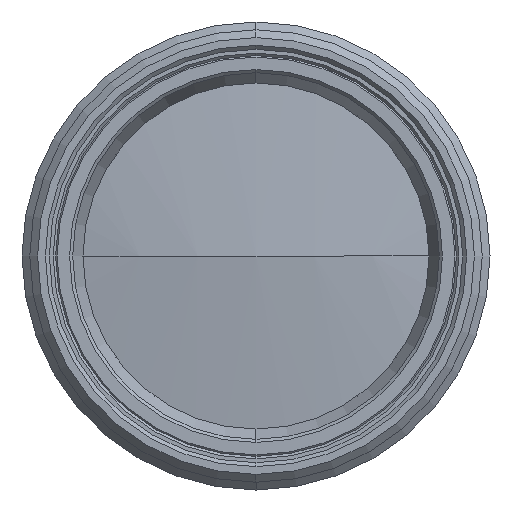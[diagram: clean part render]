
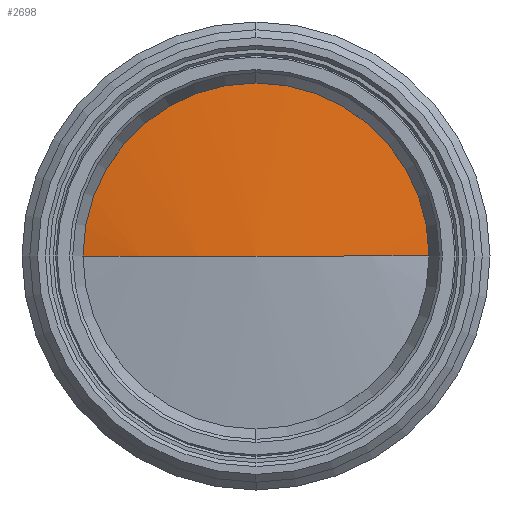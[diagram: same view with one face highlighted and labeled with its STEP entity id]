
A CAD part, left-side view. The second image highlights one B-rep face of the part: STEP entity #2698.
In plain terms, the highlighted spherical face has radius 63.5 mm.
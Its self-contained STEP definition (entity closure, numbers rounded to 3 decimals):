
#14 = AXIS2_PLACEMENT_3D ( 'NONE', #2296, #961, #2511 ) ;
#138 = ORIENTED_EDGE ( 'NONE', *, *, #1069, .F. ) ;
#330 = AXIS2_PLACEMENT_3D ( 'NONE', #2303, #972, #2523 ) ;
#363 = AXIS2_PLACEMENT_3D ( 'NONE', #2056, #725, #2289 ) ;
#396 = DIRECTION ( 'NONE',  ( 0., 0., 1. ) ) ;
#435 = CIRCLE ( 'NONE', #2419, 11.19 ) ;
#453 = CIRCLE ( 'NONE', #14, 63.5 ) ;
#569 = CARTESIAN_POINT ( 'NONE',  ( 5.309, 0., 0. ) ) ;
#725 = DIRECTION ( 'NONE',  ( 1., 0., 0. ) ) ;
#800 = DIRECTION ( 'NONE',  ( 0., 0., -1. ) ) ;
#875 = SPHERICAL_SURFACE ( 'NONE', #1421, 63.5 ) ;
#961 = DIRECTION ( 'NONE',  ( 0., 0., 1. ) ) ;
#972 = DIRECTION ( 'NONE',  ( 0., 0., -1. ) ) ;
#1069 = EDGE_CURVE ( 'NONE', #1291, #1820, #435, .T. ) ;
#1291 = VERTEX_POINT ( 'NONE', #1906 ) ;
#1421 = AXIS2_PLACEMENT_3D ( 'NONE', #2162, #396, #1938 ) ;
#1437 = CARTESIAN_POINT ( 'NONE',  ( 5.309, 11.19, 0. ) ) ;
#1460 = FACE_OUTER_BOUND ( 'NONE', #1679, .T. ) ;
#1679 = EDGE_LOOP ( 'NONE', ( #2797, #2640, #138, #1926 ) ) ;
#1777 = CIRCLE ( 'NONE', #363, 11.19 ) ;
#1820 = VERTEX_POINT ( 'NONE', #2068 ) ;
#1906 = CARTESIAN_POINT ( 'NONE',  ( 5.309, 0., 11.19 ) ) ;
#1926 = ORIENTED_EDGE ( 'NONE', *, *, #1980, .F. ) ;
#1938 = DIRECTION ( 'NONE',  ( 0., 1., 0. ) ) ;
#1980 = EDGE_CURVE ( 'NONE', #2150, #1291, #1777, .T. ) ;
#2056 = CARTESIAN_POINT ( 'NONE',  ( 5.309, 0., 0. ) ) ;
#2068 = CARTESIAN_POINT ( 'NONE',  ( 5.309, -11.19, 0. ) ) ;
#2081 = CIRCLE ( 'NONE', #330, 63.5 ) ;
#2130 = DIRECTION ( 'NONE',  ( 1., 0., 0. ) ) ;
#2140 = CARTESIAN_POINT ( 'NONE',  ( 4.315, 0., 0. ) ) ;
#2150 = VERTEX_POINT ( 'NONE', #1437 ) ;
#2162 = CARTESIAN_POINT ( 'NONE',  ( 67.815, 0., 0. ) ) ;
#2289 = DIRECTION ( 'NONE',  ( 0., 0., -1. ) ) ;
#2296 = CARTESIAN_POINT ( 'NONE',  ( 67.815, 0., 0. ) ) ;
#2303 = CARTESIAN_POINT ( 'NONE',  ( 67.815, 0., 0. ) ) ;
#2419 = AXIS2_PLACEMENT_3D ( 'NONE', #569, #2130, #800 ) ;
#2511 = DIRECTION ( 'NONE',  ( 0., -1., 0. ) ) ;
#2523 = DIRECTION ( 'NONE',  ( -1., 0., 0. ) ) ;
#2640 = ORIENTED_EDGE ( 'NONE', *, *, #2855, .T. ) ;
#2653 = VERTEX_POINT ( 'NONE', #2140 ) ;
#2698 = ADVANCED_FACE ( 'NONE', ( #1460 ), #875, .T. ) ;
#2797 = ORIENTED_EDGE ( 'NONE', *, *, #2872, .F. ) ;
#2855 = EDGE_CURVE ( 'NONE', #2653, #1820, #453, .T. ) ;
#2872 = EDGE_CURVE ( 'NONE', #2653, #2150, #2081, .T. ) ;
